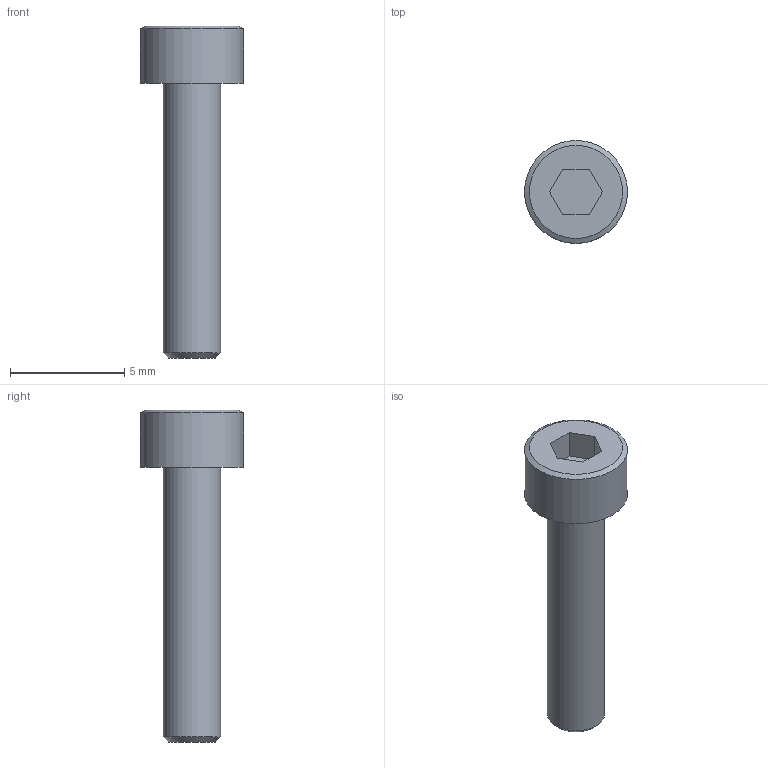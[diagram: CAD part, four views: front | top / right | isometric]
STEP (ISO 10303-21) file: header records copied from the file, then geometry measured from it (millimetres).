
FILE_DESCRIPTION(('Open CASCADE Model'),'2;1');
FILE_NAME('Open CASCADE Shape Model','2026-11-24T19:57:38',('Author'),( 'Open CASCADE'),'Open CASCADE STEP processor 7.8','Open CASCADE 7.8' ,'Unknown');
FILE_SCHEMA(('AUTOMOTIVE_DESIGN { 1 0 10303 214 1 1 1 1 }'));
Length unit declared in the file: millimetre
Products named in the file (1): Open CASCADE STEP translator 7.8 10
Bounding box: 4.5 x 4.5 x 14.5 mm (x, y, z)
Volume: 94 mm3; surface area: 167.6 mm2
Topology: 1 solids, 1 shells, 14 faces, 29 edges, 19 vertices
Faces by surface type: plane 10, cone 2, cylinder 2
Full cylindrical faces by diameter (mm): 2.5 x1, 4.5 x1
Entity records: 761 total; most frequent: CARTESIAN_POINT 137, DIRECTION 118, LINE 71, VECTOR 71, ORIENTED_EDGE 58, PCURVE 58, DEFINITIONAL_REPRESENTATION 58, EDGE_CURVE 29
